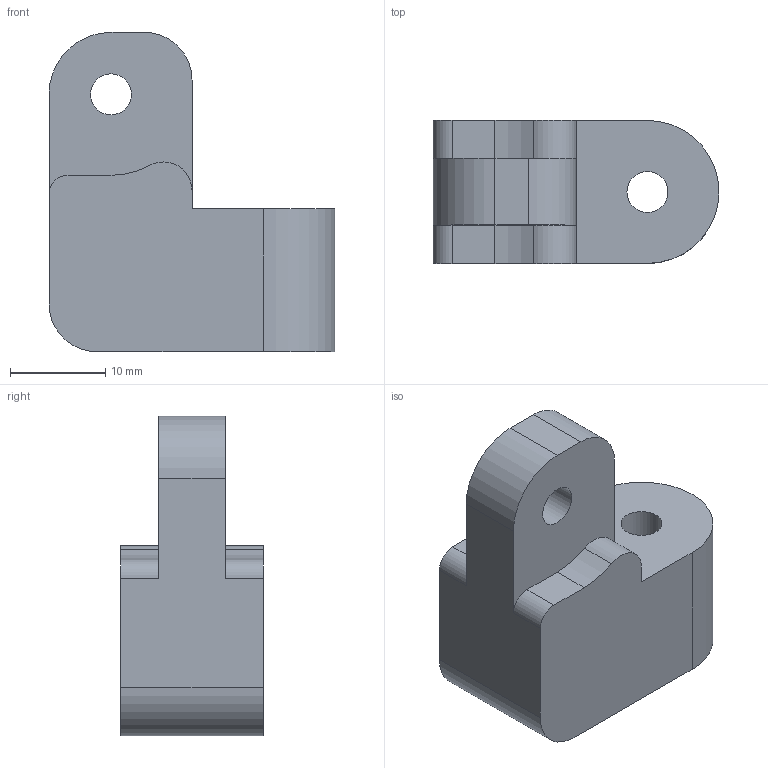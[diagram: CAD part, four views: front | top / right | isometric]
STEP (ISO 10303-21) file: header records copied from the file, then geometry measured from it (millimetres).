
FILE_DESCRIPTION(/* description */ ('STEP AP242 Edition 2','CAx-IF Rec.Pracs.---Representation and Presentation of Product Manufacturing Information (PMI)---4.0---2014-10-13','CAx-IF Rec.Pracs.---3D Tessellated Geometry---0.4---2014-09-14','2;1','CAx-IF Rec.Pracs.---User Defined Attributes---1.5---2016-08-15'),/* implementation_level */ '2;1');
FILE_NAME(/* name */ 'Assembly 1 - Joint 4',/* time_stamp */ '2026-06-23T19:13:02Z',/* author */ (''),/* organization */ (''),/* preprocessor_version */ 'ST-DEVELOPER v20',/* originating_system */ 'ONSHAPE BY PTC INC, 1.216',/* authorisation */ ' ');
FILE_SCHEMA (('AP242_MANAGED_MODEL_BASED_3D_ENGINEERING_MIM_LF { 1 0 10303 442 3 1 4 }'));
Length unit declared in the file: metre
Products named in the file (1): Joint 4
Bounding box: 30 x 15 x 33.5 mm (x, y, z)
Volume: 7862.2 mm3; surface area: 3527.9 mm2
Topology: 1 solids, 1 shells, 27 faces, 70 edges, 47 vertices
Faces by surface type: cylinder 14, plane 13
Full cylindrical faces by diameter (mm): 4.3 x2, 7 x1, 11 x1
Entity records: 841 total; most frequent: DIRECTION 149, CARTESIAN_POINT 139, ORIENTED_EDGE 130, EDGE_CURVE 65, AXIS2_PLACEMENT_3D 56, VERTEX_POINT 46, LINE 37, VECTOR 37
